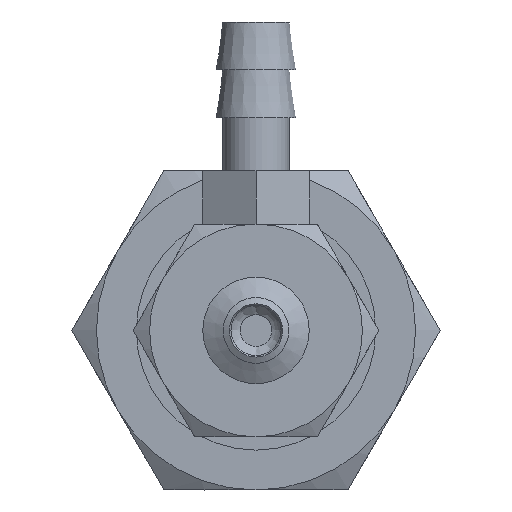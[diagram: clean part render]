
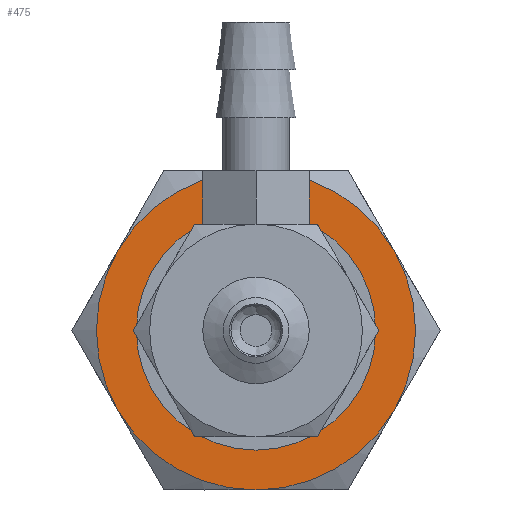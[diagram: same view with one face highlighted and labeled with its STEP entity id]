
A CAD part, front view. The second image highlights one B-rep face of the part: STEP entity #475.
In plain terms, the highlighted planar face has unit normal (0, -1, 0) as drawn and (-1, 0, 0) by its records, which use the part's own axes.
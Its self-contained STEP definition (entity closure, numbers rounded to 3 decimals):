
#475=ADVANCED_FACE('',(#633,#634),#635,.F.);
#633=FACE_BOUND('',#960,.T.);
#634=FACE_OUTER_BOUND('',#961,.T.);
#635=PLANE('',#962);
#960=EDGE_LOOP('',(#1410));
#961=EDGE_LOOP('',(#1411,#1412,#1413,#1414,#1415,#1416));
#962=AXIS2_PLACEMENT_3D('',#1417,#1418,#1419);
#1410=ORIENTED_EDGE('',*,*,#2197,.T.);
#1411=ORIENTED_EDGE('',*,*,#2172,.F.);
#1412=ORIENTED_EDGE('',*,*,#2190,.F.);
#1413=ORIENTED_EDGE('',*,*,#2198,.F.);
#1414=ORIENTED_EDGE('',*,*,#2195,.F.);
#1415=ORIENTED_EDGE('',*,*,#2199,.F.);
#1416=ORIENTED_EDGE('',*,*,#2200,.F.);
#1417=CARTESIAN_POINT('',(0.,0.0,0.0));
#1418=DIRECTION('',(1.0,0.0,0.0));
#1419=DIRECTION('',(0.0,1.0,0.0));
#2172=EDGE_CURVE('',#2428,#2430,#2431,.T.);
#2190=EDGE_CURVE('',#2463,#2428,#2464,.T.);
#2195=EDGE_CURVE('',#2471,#2460,#2472,.T.);
#2197=EDGE_CURVE('',#2474,#2474,#2475,.T.);
#2198=EDGE_CURVE('',#2460,#2463,#2476,.T.);
#2199=EDGE_CURVE('',#2477,#2471,#2478,.T.);
#2200=EDGE_CURVE('',#2430,#2477,#2479,.T.);
#2428=VERTEX_POINT('',#2856);
#2430=VERTEX_POINT('',#2868);
#2431=CIRCLE('',#2869,6.0);
#2460=VERTEX_POINT('',#2992);
#2463=VERTEX_POINT('',#3015);
#2464=CIRCLE('',#3016,6.0);
#2471=VERTEX_POINT('',#3053);
#2472=CIRCLE('',#3054,6.0);
#2474=VERTEX_POINT('',#3066);
#2475=CIRCLE('',#3067,4.0);
#2476=CIRCLE('',#3068,6.0);
#2477=VERTEX_POINT('',#3069);
#2478=CIRCLE('',#3070,6.0);
#2479=CIRCLE('',#3071,6.0);
#2856=CARTESIAN_POINT('',(0.,5.196,-3.0));
#2868=CARTESIAN_POINT('',(0.,5.196,3.0));
#2869=AXIS2_PLACEMENT_3D('',#3685,#3686,#3687);
#2992=CARTESIAN_POINT('',(0.,-5.196,-3.0));
#3015=CARTESIAN_POINT('',(0.,0.0,-6.0));
#3016=AXIS2_PLACEMENT_3D('',#3698,#3699,#3700);
#3053=CARTESIAN_POINT('',(0.,-5.196,3.0));
#3054=AXIS2_PLACEMENT_3D('',#3704,#3705,#3706);
#3066=CARTESIAN_POINT('',(0.,0.0,-4.0));
#3067=AXIS2_PLACEMENT_3D('',#3707,#3708,#3709);
#3068=AXIS2_PLACEMENT_3D('',#3710,#3711,#3712);
#3069=CARTESIAN_POINT('',(0.,0.0,6.0));
#3070=AXIS2_PLACEMENT_3D('',#3713,#3714,#3715);
#3071=AXIS2_PLACEMENT_3D('',#3716,#3717,#3718);
#3685=CARTESIAN_POINT('',(0.,0.0,0.0));
#3686=DIRECTION('',(1.0,0.0,0.0));
#3687=DIRECTION('',(0.0,0.0,-1.0));
#3698=CARTESIAN_POINT('',(0.,0.0,0.0));
#3699=DIRECTION('',(1.0,0.0,0.0));
#3700=DIRECTION('',(0.0,0.0,-1.0));
#3704=CARTESIAN_POINT('',(0.,0.0,0.0));
#3705=DIRECTION('',(1.0,0.0,0.0));
#3706=DIRECTION('',(0.0,0.0,-1.0));
#3707=CARTESIAN_POINT('',(0.,0.0,0.0));
#3708=DIRECTION('',(1.0,0.0,0.0));
#3709=DIRECTION('',(0.0,0.0,-1.0));
#3710=CARTESIAN_POINT('',(0.,0.0,0.0));
#3711=DIRECTION('',(1.0,0.0,0.0));
#3712=DIRECTION('',(0.0,0.0,-1.0));
#3713=CARTESIAN_POINT('',(0.,0.0,0.0));
#3714=DIRECTION('',(1.0,0.0,0.0));
#3715=DIRECTION('',(0.0,0.0,-1.0));
#3716=CARTESIAN_POINT('',(0.,0.0,0.0));
#3717=DIRECTION('',(1.0,0.0,0.0));
#3718=DIRECTION('',(0.0,0.0,-1.0));
